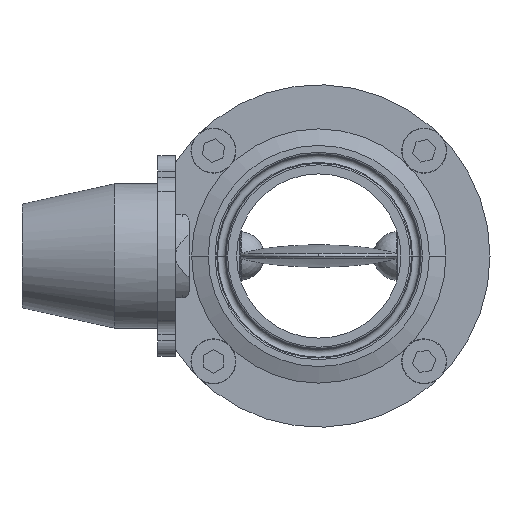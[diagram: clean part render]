
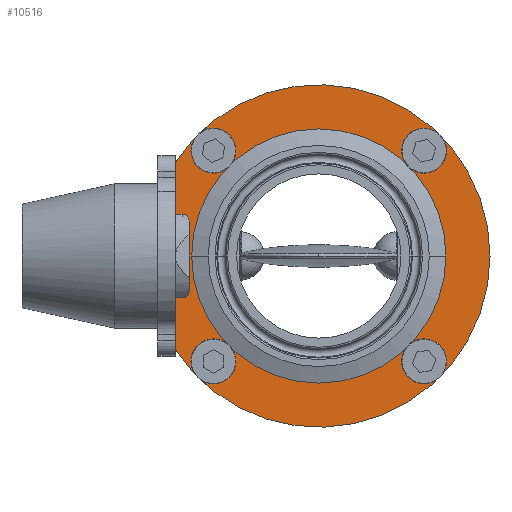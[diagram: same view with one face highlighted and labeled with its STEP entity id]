
A CAD part, left-side view. The second image highlights one B-rep face of the part: STEP entity #10516.
In plain terms, the highlighted planar face has unit normal (-1, 0, 0) as drawn and (1, 0, 0) by its records, which use the part's own axes.
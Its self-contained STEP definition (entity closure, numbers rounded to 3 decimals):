
#513 = AXIS2_PLACEMENT_3D ( 'NONE', #2514, #9693, #5002 ) ;
#650 = VERTEX_POINT ( 'NONE', #17241 ) ;
#1106 = VERTEX_POINT ( 'NONE', #27671 ) ;
#1281 = DIRECTION ( 'NONE',  ( 0., 0., 1. ) ) ;
#1311 = DIRECTION ( 'NONE',  ( 1., 0., 0. ) ) ;
#1588 = EDGE_CURVE ( 'NONE', #28286, #8636, #3530, .T. ) ;
#1611 = CARTESIAN_POINT ( 'NONE',  ( 11., 0., 0. ) ) ;
#2514 = CARTESIAN_POINT ( 'NONE',  ( 11., 0., 0. ) ) ;
#2612 = DIRECTION ( 'NONE',  ( 0., 0., 1. ) ) ;
#2768 = AXIS2_PLACEMENT_3D ( 'NONE', #22715, #8628, #1281 ) ;
#2885 = AXIS2_PLACEMENT_3D ( 'NONE', #8185, #24776, #27463 ) ;
#2930 = ORIENTED_EDGE ( 'NONE', *, *, #15120, .T. ) ;
#3069 = CIRCLE ( 'NONE', #5048, 4.5 ) ;
#3376 = DIRECTION ( 'NONE',  ( -1., 0., 0. ) ) ;
#3530 = CIRCLE ( 'NONE', #27044, 4.5 ) ;
#3541 = FACE_BOUND ( 'NONE', #15754, .T. ) ;
#3642 = EDGE_CURVE ( 'NONE', #8636, #28286, #3069, .T. ) ;
#3734 = CARTESIAN_POINT ( 'NONE',  ( 11., 49.5, -41.5 ) ) ;
#3770 = CIRCLE ( 'NONE', #2768, 36.75 ) ;
#3786 = EDGE_LOOP ( 'NONE', ( #8523, #14606 ) ) ;
#4145 = DIRECTION ( 'NONE',  ( 1., 0., 0. ) ) ;
#4380 = AXIS2_PLACEMENT_3D ( 'NONE', #18957, #23808, #26314 ) ;
#4894 = EDGE_LOOP ( 'NONE', ( #21853, #10518 ) ) ;
#4974 = ORIENTED_EDGE ( 'NONE', *, *, #13030, .F. ) ;
#5002 = DIRECTION ( 'NONE',  ( 0., 0., 1. ) ) ;
#5048 = AXIS2_PLACEMENT_3D ( 'NONE', #15713, #1311, #11322 ) ;
#5142 = VERTEX_POINT ( 'NONE', #11406 ) ;
#5400 = DIRECTION ( 'NONE',  ( 1., 0., 0. ) ) ;
#5763 = EDGE_CURVE ( 'NONE', #23029, #28467, #10413, .T. ) ;
#5768 = VERTEX_POINT ( 'NONE', #27655 ) ;
#5809 = ORIENTED_EDGE ( 'NONE', *, *, #29176, .T. ) ;
#5856 = CARTESIAN_POINT ( 'NONE',  ( 11., 30.45, -25.95 ) ) ;
#6157 = CARTESIAN_POINT ( 'NONE',  ( 11., 0., 49.5 ) ) ;
#6294 = EDGE_CURVE ( 'NONE', #19043, #5142, #20619, .T. ) ;
#6325 = FACE_BOUND ( 'NONE', #4894, .T. ) ;
#7069 = DIRECTION ( 'NONE',  ( 0., 0., 1. ) ) ;
#7142 = DIRECTION ( 'NONE',  ( 1., 0., 0. ) ) ;
#7328 = VERTEX_POINT ( 'NONE', #29669 ) ;
#8077 = FACE_BOUND ( 'NONE', #3786, .T. ) ;
#8185 = CARTESIAN_POINT ( 'NONE',  ( 11., 0., 0. ) ) ;
#8405 = CIRCLE ( 'NONE', #2885, 36.75 ) ;
#8478 = CARTESIAN_POINT ( 'NONE',  ( 11., 30.45, -30.45 ) ) ;
#8523 = ORIENTED_EDGE ( 'NONE', *, *, #22792, .F. ) ;
#8628 = DIRECTION ( 'NONE',  ( -1., 0., 0. ) ) ;
#8636 = VERTEX_POINT ( 'NONE', #9874 ) ;
#8776 = DIRECTION ( 'NONE',  ( 1., 0., 0. ) ) ;
#8977 = CARTESIAN_POINT ( 'NONE',  ( 11., -30.45, -30.45 ) ) ;
#9316 = CARTESIAN_POINT ( 'NONE',  ( 11., -30.45, 30.45 ) ) ;
#9693 = DIRECTION ( 'NONE',  ( -1., 0., 0. ) ) ;
#9874 = CARTESIAN_POINT ( 'NONE',  ( 11., 30.45, -34.95 ) ) ;
#10333 = CIRCLE ( 'NONE', #24321, 4.5 ) ;
#10413 = CIRCLE ( 'NONE', #28966, 4.5 ) ;
#10516 = ADVANCED_FACE ( 'NONE', ( #13537, #8077, #6325, #15427, #27822, #3541 ), #10730, .F. ) ;
#10518 = ORIENTED_EDGE ( 'NONE', *, *, #23287, .F. ) ;
#10730 = PLANE ( 'NONE',  #15440 ) ;
#11322 = DIRECTION ( 'NONE',  ( 0., 0., 1. ) ) ;
#11406 = CARTESIAN_POINT ( 'NONE',  ( 11., 30.45, 34.95 ) ) ;
#12029 = ORIENTED_EDGE ( 'NONE', *, *, #22068, .F. ) ;
#12318 = VERTEX_POINT ( 'NONE', #13752 ) ;
#12797 = VERTEX_POINT ( 'NONE', #23110 ) ;
#13030 = EDGE_CURVE ( 'NONE', #650, #29962, #19008, .T. ) ;
#13537 = FACE_BOUND ( 'NONE', #17481, .T. ) ;
#13634 = DIRECTION ( 'NONE',  ( 0., 0., 1. ) ) ;
#13752 = CARTESIAN_POINT ( 'NONE',  ( 11., -30.45, 34.95 ) ) ;
#13820 = CIRCLE ( 'NONE', #16336, 4.5 ) ;
#13893 = ORIENTED_EDGE ( 'NONE', *, *, #17787, .T. ) ;
#14606 = ORIENTED_EDGE ( 'NONE', *, *, #6294, .F. ) ;
#14759 = CARTESIAN_POINT ( 'NONE',  ( 11., -30.45, -34.95 ) ) ;
#14962 = CARTESIAN_POINT ( 'NONE',  ( 11., -30.45, -25.95 ) ) ;
#15120 = EDGE_CURVE ( 'NONE', #7328, #12797, #8405, .T. ) ;
#15325 = CIRCLE ( 'NONE', #21316, 4.5 ) ;
#15427 = FACE_BOUND ( 'NONE', #26215, .T. ) ;
#15440 = AXIS2_PLACEMENT_3D ( 'NONE', #27501, #3376, #24974 ) ;
#15713 = CARTESIAN_POINT ( 'NONE',  ( 11., 30.45, -30.45 ) ) ;
#15754 = EDGE_LOOP ( 'NONE', ( #2930, #13893 ) ) ;
#16057 = VECTOR ( 'NONE', #17657, 1000. ) ;
#16091 = ORIENTED_EDGE ( 'NONE', *, *, #3642, .F. ) ;
#16336 = AXIS2_PLACEMENT_3D ( 'NONE', #9316, #21681, #30801 ) ;
#17241 = CARTESIAN_POINT ( 'NONE',  ( 11., -26.981, -41.5 ) ) ;
#17481 = EDGE_LOOP ( 'NONE', ( #20065, #16091 ) ) ;
#17657 = DIRECTION ( 'NONE',  ( 0., 1., 0. ) ) ;
#17787 = EDGE_CURVE ( 'NONE', #12797, #7328, #3770, .T. ) ;
#17871 = CIRCLE ( 'NONE', #4380, 4.5 ) ;
#18517 = CARTESIAN_POINT ( 'NONE',  ( 11., 30.45, 25.95 ) ) ;
#18956 = DIRECTION ( 'NONE',  ( -1., 0., 0. ) ) ;
#18957 = CARTESIAN_POINT ( 'NONE',  ( 11., -30.45, 30.45 ) ) ;
#19008 = CIRCLE ( 'NONE', #27559, 49.5 ) ;
#19043 = VERTEX_POINT ( 'NONE', #18517 ) ;
#19172 = ORIENTED_EDGE ( 'NONE', *, *, #25483, .F. ) ;
#20065 = ORIENTED_EDGE ( 'NONE', *, *, #1588, .F. ) ;
#20619 = CIRCLE ( 'NONE', #21623, 4.5 ) ;
#20998 = CARTESIAN_POINT ( 'NONE',  ( 11., 30.45, 30.45 ) ) ;
#21316 = AXIS2_PLACEMENT_3D ( 'NONE', #26859, #5400, #24489 ) ;
#21623 = AXIS2_PLACEMENT_3D ( 'NONE', #20998, #30580, #7069 ) ;
#21681 = DIRECTION ( 'NONE',  ( 1., 0., 0. ) ) ;
#21837 = EDGE_CURVE ( 'NONE', #12318, #1106, #13820, .T. ) ;
#21853 = ORIENTED_EDGE ( 'NONE', *, *, #21837, .F. ) ;
#22068 = EDGE_CURVE ( 'NONE', #28467, #23029, #15325, .T. ) ;
#22715 = CARTESIAN_POINT ( 'NONE',  ( 11., 0., 0. ) ) ;
#22792 = EDGE_CURVE ( 'NONE', #5142, #19043, #10333, .T. ) ;
#23029 = VERTEX_POINT ( 'NONE', #14962 ) ;
#23110 = CARTESIAN_POINT ( 'NONE',  ( 11., 0., -36.75 ) ) ;
#23287 = EDGE_CURVE ( 'NONE', #1106, #12318, #17871, .T. ) ;
#23651 = DIRECTION ( 'NONE',  ( 0., 0., 1. ) ) ;
#23808 = DIRECTION ( 'NONE',  ( 1., 0., 0. ) ) ;
#24321 = AXIS2_PLACEMENT_3D ( 'NONE', #26387, #7142, #2612 ) ;
#24489 = DIRECTION ( 'NONE',  ( 0., 0., 1. ) ) ;
#24776 = DIRECTION ( 'NONE',  ( -1., 0., 0. ) ) ;
#24974 = DIRECTION ( 'NONE',  ( 0., 0., 1. ) ) ;
#25055 = EDGE_LOOP ( 'NONE', ( #4974, #5809, #19172 ) ) ;
#25125 = DIRECTION ( 'NONE',  ( 0., 0., 1. ) ) ;
#25483 = EDGE_CURVE ( 'NONE', #29962, #5768, #29038, .T. ) ;
#26215 = EDGE_LOOP ( 'NONE', ( #26794, #12029 ) ) ;
#26314 = DIRECTION ( 'NONE',  ( 0., 0., 1. ) ) ;
#26387 = CARTESIAN_POINT ( 'NONE',  ( 11., 30.45, 30.45 ) ) ;
#26794 = ORIENTED_EDGE ( 'NONE', *, *, #5763, .F. ) ;
#26859 = CARTESIAN_POINT ( 'NONE',  ( 11., -30.45, -30.45 ) ) ;
#27044 = AXIS2_PLACEMENT_3D ( 'NONE', #8478, #8776, #13634 ) ;
#27380 = LINE ( 'NONE', #3734, #16057 ) ;
#27463 = DIRECTION ( 'NONE',  ( 0., 0., 1. ) ) ;
#27501 = CARTESIAN_POINT ( 'NONE',  ( 11., 49.5, 0. ) ) ;
#27559 = AXIS2_PLACEMENT_3D ( 'NONE', #1611, #18956, #23651 ) ;
#27655 = CARTESIAN_POINT ( 'NONE',  ( 11., 26.981, -41.5 ) ) ;
#27671 = CARTESIAN_POINT ( 'NONE',  ( 11., -30.45, 25.95 ) ) ;
#27822 = FACE_OUTER_BOUND ( 'NONE', #25055, .T. ) ;
#28286 = VERTEX_POINT ( 'NONE', #5856 ) ;
#28467 = VERTEX_POINT ( 'NONE', #14759 ) ;
#28966 = AXIS2_PLACEMENT_3D ( 'NONE', #8977, #4145, #25125 ) ;
#29038 = CIRCLE ( 'NONE', #513, 49.5 ) ;
#29176 = EDGE_CURVE ( 'NONE', #650, #5768, #27380, .T. ) ;
#29669 = CARTESIAN_POINT ( 'NONE',  ( 11., 0., 36.75 ) ) ;
#29962 = VERTEX_POINT ( 'NONE', #6157 ) ;
#30580 = DIRECTION ( 'NONE',  ( 1., 0., 0. ) ) ;
#30801 = DIRECTION ( 'NONE',  ( 0., 0., 1. ) ) ;
